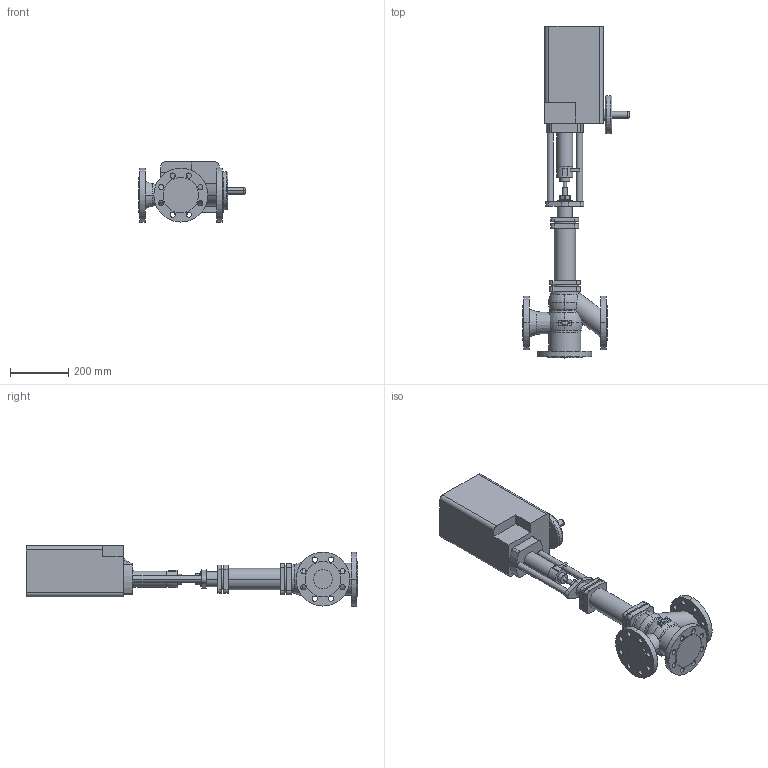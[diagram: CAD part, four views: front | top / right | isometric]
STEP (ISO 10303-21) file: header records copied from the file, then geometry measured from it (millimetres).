
FILE_DESCRIPTION(('OneSpaceDesigner STEP Export'),'2;1');
FILE_NAME('c000002465.stp','2006-09-21T11:57:23',(''),(''),'OneSpace Designer STEP processor for AP214 (Solid Model)','OneSpace Designer 13.20A 18-Aug-2005 (C) CoCreate Software GmbH','');
FILE_SCHEMA(('AUTOMOTIVE_DESIGN { 1 0 10303 214 1 1 1 1 }'));
Length unit declared in the file: millimetre
Products named in the file (2): 1; 2
Bounding box: 366.6 x 1138.5 x 206.5 mm (x, y, z)
Volume: 18618395 mm3; surface area: 856053.4 mm2
Topology: 2 solids, 2 shells, 276 faces, 703 edges, 466 vertices
Faces by surface type: cylinder 138, plane 110, torus 24, cone 4
Entity records: 7725 total; most frequent: CARTESIAN_POINT 1434, ORIENTED_EDGE 1406, DIRECTION 1165, EDGE_CURVE 703, VERTEX_POINT 466, AXIS2_PLACEMENT_3D 419, EDGE_LOOP 359, VECTOR 327
